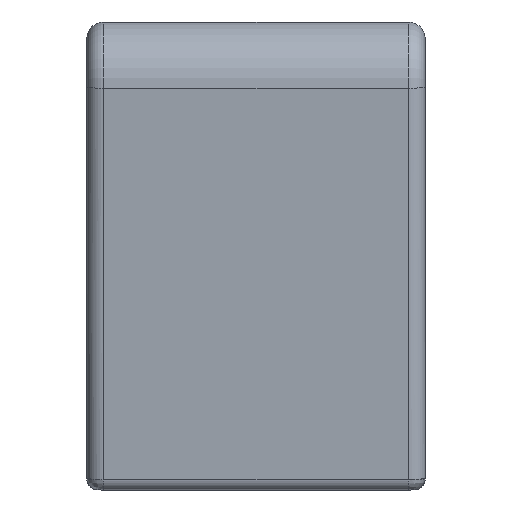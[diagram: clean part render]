
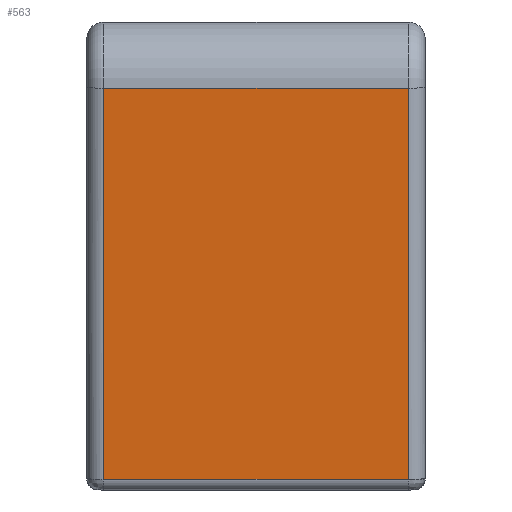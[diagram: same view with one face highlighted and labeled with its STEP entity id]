
A CAD part, left-side view. The second image highlights one B-rep face of the part: STEP entity #563.
In plain terms, the highlighted planar face has unit normal (-0.998, 0, -0.067).
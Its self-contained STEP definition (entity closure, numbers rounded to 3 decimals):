
#32 = EDGE_LOOP ( 'NONE', ( #2960, #2959, #2958, #2957 ) ) ;
#322 = EDGE_CURVE ( 'NONE', #4996, #4911, #3713, .T. ) ;
#323 = EDGE_CURVE ( 'NONE', #4911, #5078, #3716, .T. ) ;
#324 = EDGE_CURVE ( 'NONE', #5078, #4974, #3719, .T. ) ;
#325 = EDGE_CURVE ( 'NONE', #4996, #4974, #3723, .T. ) ;
#563 = ADVANCED_FACE ( 'NONE', ( #4319 ), #2137, .T. ) ;
#1072 = CARTESIAN_POINT ( 'NONE',  ( -190.063, 13.5, -6.067 ) ) ;
#1100 = CARTESIAN_POINT ( 'NONE',  ( -192.388, -13.5, 28.632 ) ) ;
#1122 = CARTESIAN_POINT ( 'NONE',  ( -192.388, 13.5, 28.632 ) ) ;
#1204 = CARTESIAN_POINT ( 'NONE',  ( -190.063, -13.5, -6.067 ) ) ;
#2137 = PLANE ( 'NONE',  #2853 ) ;
#2138 = CARTESIAN_POINT ( 'NONE',  ( -190., 15., -7. ) ) ;
#2139 = DIRECTION ( 'NONE',  ( -0.998, 0., -0.067 ) ) ;
#2140 = DIRECTION ( 'NONE',  ( -0.067, 0., 0.998 ) ) ;
#2853 = AXIS2_PLACEMENT_3D ( 'NONE', #2138, #2139, #2140 ) ;
#2957 = ORIENTED_EDGE ( 'NONE', *, *, #325, .F. ) ;
#2958 = ORIENTED_EDGE ( 'NONE', *, *, #324, .T. ) ;
#2959 = ORIENTED_EDGE ( 'NONE', *, *, #323, .T. ) ;
#2960 = ORIENTED_EDGE ( 'NONE', *, *, #322, .T. ) ;
#3713 = LINE ( 'NONE', #4559, #3714 ) ;
#3714 = VECTOR ( 'NONE', #4558, 1000. ) ;
#3716 = LINE ( 'NONE', #4557, #3718 ) ;
#3718 = VECTOR ( 'NONE', #4556, 1000. ) ;
#3719 = LINE ( 'NONE', #4554, #3720 ) ;
#3720 = VECTOR ( 'NONE', #4553, 1000. ) ;
#3723 = LINE ( 'NONE', #4551, #3725 ) ;
#3725 = VECTOR ( 'NONE', #4550, 1000. ) ;
#4319 = FACE_OUTER_BOUND ( 'NONE', #32, .T. ) ;
#4550 = DIRECTION ( 'NONE',  ( 0., -1., 0. ) ) ;
#4551 = CARTESIAN_POINT ( 'NONE',  ( -192.388, 15., 28.632 ) ) ;
#4553 = DIRECTION ( 'NONE',  ( -0.067, 0., 0.998 ) ) ;
#4554 = CARTESIAN_POINT ( 'NONE',  ( -192.388, -13.5, 28.632 ) ) ;
#4556 = DIRECTION ( 'NONE',  ( 0., -1., 0. ) ) ;
#4557 = CARTESIAN_POINT ( 'NONE',  ( -190.063, 15., -6.067 ) ) ;
#4558 = DIRECTION ( 'NONE',  ( 0.067, 0., -0.998 ) ) ;
#4559 = CARTESIAN_POINT ( 'NONE',  ( -190., 13.5, -7. ) ) ;
#4911 = VERTEX_POINT ( 'NONE', #1072 ) ;
#4974 = VERTEX_POINT ( 'NONE', #1100 ) ;
#4996 = VERTEX_POINT ( 'NONE', #1122 ) ;
#5078 = VERTEX_POINT ( 'NONE', #1204 ) ;
